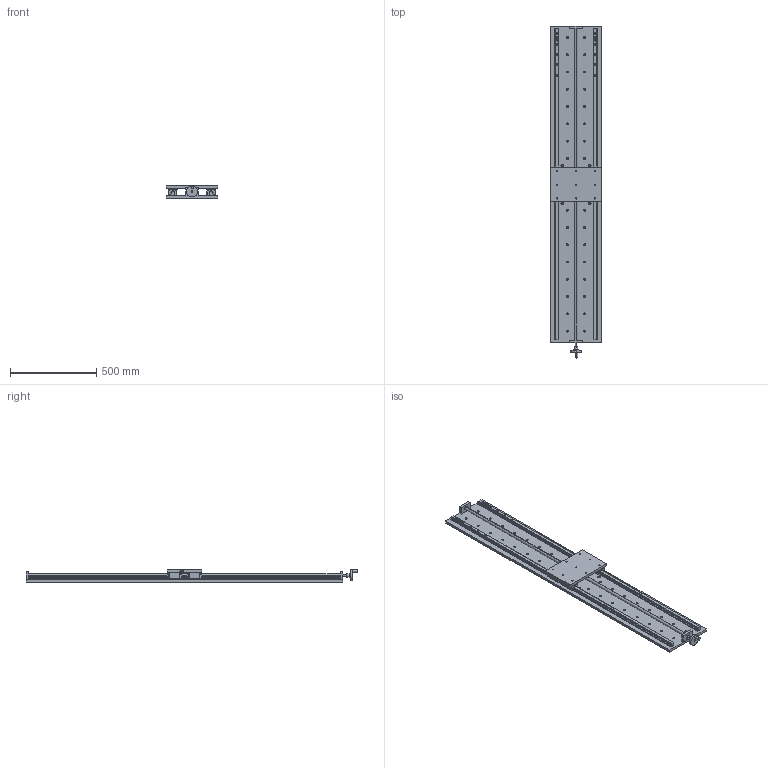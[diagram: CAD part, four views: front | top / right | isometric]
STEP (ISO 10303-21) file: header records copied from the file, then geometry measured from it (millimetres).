
FILE_DESCRIPTION (( 'STEP AP214' ), '1' );
FILE_NAME ('PT300-1600.STEP', '2022-09-18T06:35:41', ( '' ), ( '' ), 'SwSTEP 2.0', 'SolidWorks 2017', '' );
FILE_SCHEMA (( 'AUTOMOTIVE_DESIGN' ));
Length unit declared in the file: millimetre
Products named in the file (12): 標踡; 忒謫; 34320001; 醱啣; PT300-1600; HGH25CA2R300Z0C_GW202204023669; HGR25_temp-1600; HGH25C__X2_5DE65C01_X0__temp; HGH25C__X2_53F35C01_X0__temp; M6H; 菁啣-1600; 標踡輸
Assembly tree (12 placements, depth 3):
  PT300-1600
    菁啣-1600
    醱啣
    HGH25CA2R300Z0C_GW202204023669  x2
      HGR25_temp-1600
      HGH25C__X2_53F35C01_X0__temp
      M6H
      HGH25C__X2_5DE65C01_X0__temp
      34320001
    標踡
      標踡輸
      忒謫
Bounding box: 300 x 1922.1 x 70.06 mm (x, y, z)
Volume: 11791597 mm3; surface area: 1920892.9 mm2
Topology: 31 solids, 33 shells, 3149 faces, 8782 edges, 5798 vertices
Faces by surface type: plane 2013, cylinder 870, bspline 202, cone 56, torus 8
Entity records: 77277 total; most frequent: CARTESIAN_POINT 15406, ORIENTED_EDGE 9904, DIRECTION 9120, EDGE_CURVE 4952, VECTOR 3494, LINE 3494, VERTEX_POINT 3287, AXIS2_PLACEMENT_3D 2813
